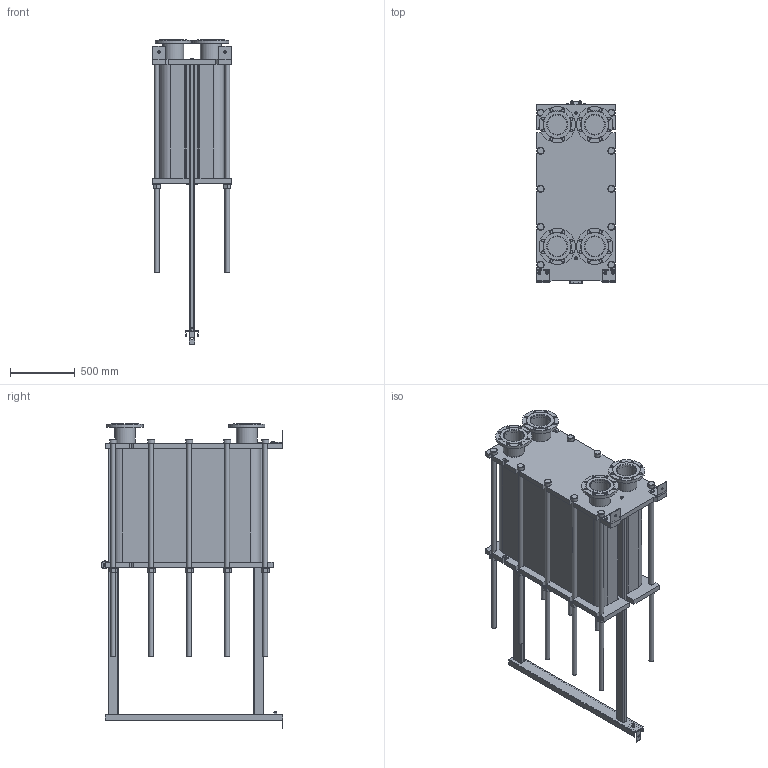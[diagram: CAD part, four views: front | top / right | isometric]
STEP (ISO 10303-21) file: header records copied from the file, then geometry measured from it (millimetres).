
FILE_DESCRIPTION(/* description */ (''),/* implementation_level */ '2;1');
FILE_NAME(/* name */ 'C:\Users\zhuro\Desktop\ENCO\TO\ЭН-041\ЭН-0,5-041-255-1.stp',/* time_stamp */ '2022-06-06T11:10:19+03:00',/* author */ ('zhuro'),/* organization */ (''),/* preprocessor_version */ 'ST-DEVELOPER v18.1',/* originating_system */ 'Autodesk Inventor 2022',/* authorisation */ '');
FILE_SCHEMA (('AUTOMOTIVE_DESIGN { 1 0 10303 214 3 1 1 }'));
Length unit declared in the file: millimetre
Products named in the file (1): ЭН-0,5-041-255-1
Bounding box: 610 x 1406.5 x 2352.5 mm (x, y, z)
Volume: 586169594.5 mm3; surface area: 12442134 mm2
Topology: 52 solids, 52 shells, 711 faces, 1696 edges, 1094 vertices
Faces by surface type: plane 487, cylinder 177, cone 41, torus 6
Full cylindrical faces by diameter (mm): 8 x4, 10 x2, 16 x8, 18 x3, 22 x32, 36 x24, 50 x1, 54 x10, 60 x12, 151 x4, 161 x8, 280 x4
Entity records: 22667 total; most frequent: CARTESIAN_POINT 5230, DIRECTION 3644, ORIENTED_EDGE 3392, EDGE_CURVE 1696, AXIS2_PLACEMENT_3D 1272, LINE 1100, VECTOR 1100, VERTEX_POINT 1094
